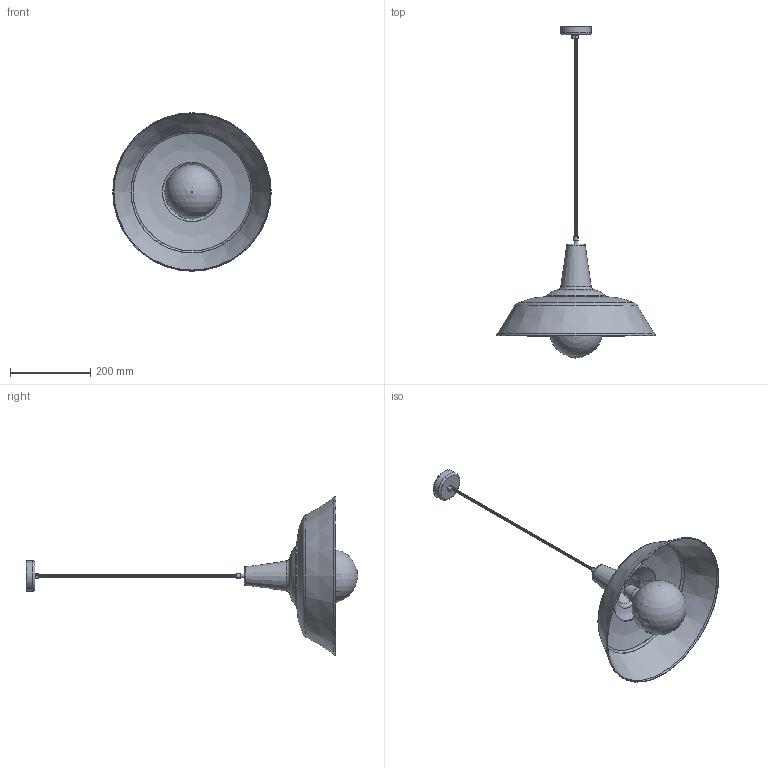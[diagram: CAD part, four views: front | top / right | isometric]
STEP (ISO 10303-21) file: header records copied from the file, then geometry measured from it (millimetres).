
FILE_DESCRIPTION(/* description */ (''),/* implementation_level */ '2;1');
FILE_NAME(/* name */ 'C:\Users\Patryk\Desktop\Modele MOSIĄDZ\BLUES\LAMPA BLUES.stp',/* time_stamp */ '2019-12-15T01:43:36+01:00',/* author */ ('Patryk'),/* organization */ (''),/* preprocessor_version */ 'ST-DEVELOPER v17',/* originating_system */ 'Autodesk Inventor 2019',/* authorisation */ '');
FILE_SCHEMA (('AUTOMOTIVE_DESIGN { 1 0 10303 214 3 1 1 }'));
Length unit declared in the file: millimetre
Products named in the file (19): LAMPA BLUES; BLUES klosz; BLUES uchwyt kabla II; BLUES uchwyt kabla; BLUES kabel I; BLUES kabel II; B03 mocowanie zarowki II; B03 mocowanie zarowki; Assembly6; holder; Part71; Part72; fila; Part1; klosz; 1. zespol mocowania do sciany; FUNK mocowanie do sciany; FUNK mocowanie kabla; sruba
Assembly tree (516 placements, depth 3):
  LAMPA BLUES
    BLUES klosz
    BLUES uchwyt kabla II
    BLUES uchwyt kabla
    BLUES kabel I  x250
    BLUES kabel II  x250
    B03 mocowanie zarowki II
    B03 mocowanie zarowki
    Assembly6
      holder
      Part71
      Part72
      fila
      Part1
    klosz
    1. zespol mocowania do sciany
      FUNK mocowanie do sciany
      FUNK mocowanie kabla
      sruba
Bounding box: 393.63 x 824.93 x 393.63 mm (x, y, z)
Volume: 1522132.4 mm3; surface area: 544932.5 mm2
Topology: 512 solids, 514 shells, 2229 faces, 3248 edges, 2051 vertices
Faces by surface type: plane 1051, cylinder 548, cone 362, torus 204, bspline 63, sphere 1
Full cylindrical faces by diameter (mm): 0.3 x2, 0.32 x1, 0.5 x2, 1 x2, 2.5 x1, 3 x2, 4 x2, 5 x500, 6 x5, 9 x1, 10 x1, 10.744 x1, 15.635 x1, 22.827 x1, 34.949 x4, 37.2 x5, 73 x1, 75 x1, 146.317 x1, 147.317 x1
Entity records: 36232 total; most frequent: CARTESIAN_POINT 14005, DIRECTION 5083, ORIENTED_EDGE 3499, AXIS2_PLACEMENT_3D 2260, EDGE_CURVE 1752, VERTEX_POINT 1055, CIRCLE 1048, EDGE_LOOP 762
